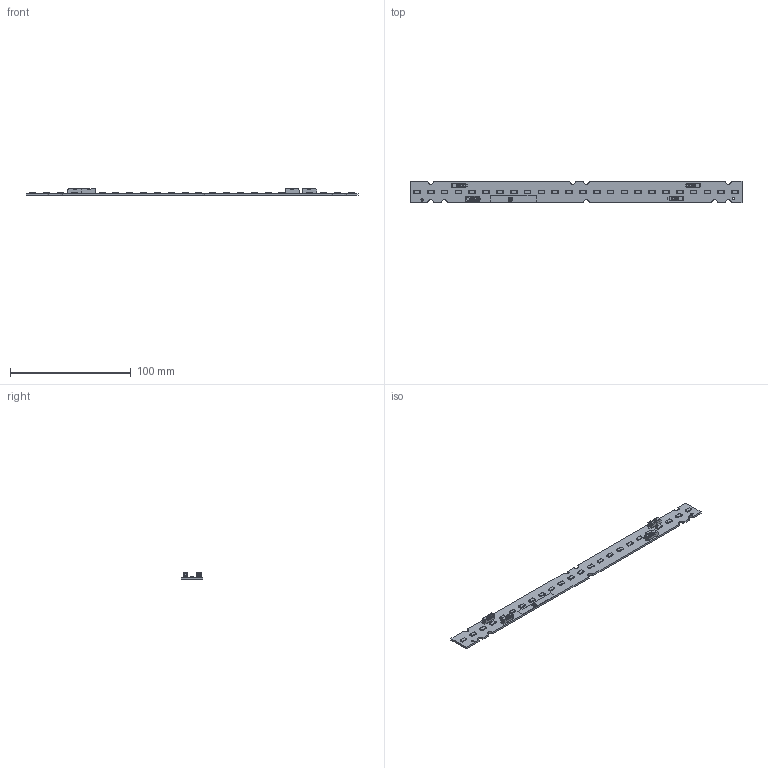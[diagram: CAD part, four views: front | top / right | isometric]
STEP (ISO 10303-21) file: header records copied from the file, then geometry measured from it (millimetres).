
FILE_DESCRIPTION(/* description */ (''),/* implementation_level */ '2;1');
FILE_NAME(/* name */ 'M282C_G2_MODULE.stp',/* time_stamp */ '2016-03-28T18:28:20+09:00',/* author */ (''),/* organization */ (''),/* preprocessor_version */ 'ST-DEVELOPER v15',/* originating_system */ 'SIEMENS PLM Software NX 8.5',/* authorisation */ '');
FILE_SCHEMA (('AP203_CONFIGURATION_CONTROLLED_3D_DESIGN_OF_MECHANICAL_PARTS_AND_ASSEMBLIES_MIM_LF { 1 0 10303 403 2 1 2}'));
Products named in the file (1): jjjj034498ACqsx3
Bounding box: 275 x 18 x 5.75 mm (x, y, z)
Volume: 8173.6 mm3; surface area: 14626.7 mm2
Topology: 34 solids, 34 shells, 1956 faces, 6193 edges, 4602 vertices
Faces by surface type: plane 1698, cylinder 197, bspline 24, torus 20, extrusion 9, sphere 8
Full cylindrical faces by diameter (mm): 2 x2
Entity records: 82034 total; most frequent: CARTESIAN_POINT 30369, ORIENTED_EDGE 10822, DIRECTION 9876, EDGE_CURVE 5411, VECTOR 5136, LINE 5127, VERTEX_POINT 3558, AXIS2_PLACEMENT_3D 2370
